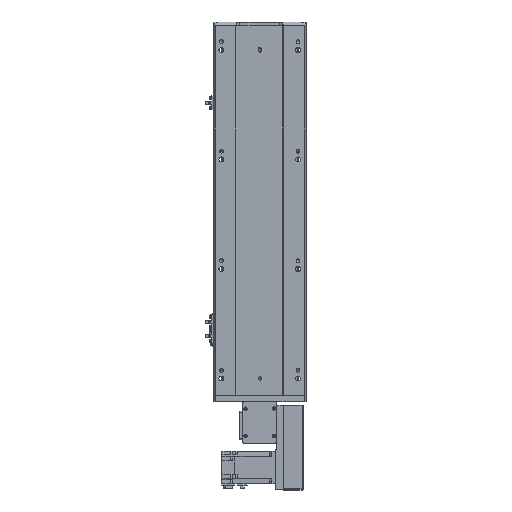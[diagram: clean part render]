
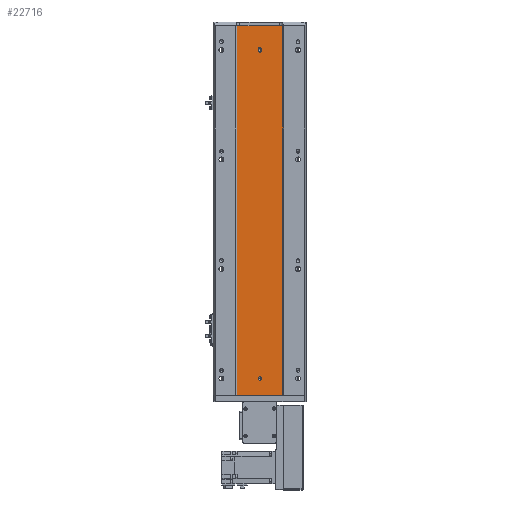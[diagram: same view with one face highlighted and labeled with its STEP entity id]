
A CAD part, top view. The second image highlights one B-rep face of the part: STEP entity #22716.
In plain terms, the highlighted planar face has unit normal (0, 0, 1).
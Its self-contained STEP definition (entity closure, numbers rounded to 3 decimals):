
#1 = ORIENTED_EDGE ( 'NONE', *, *, #12815, .T. ) ;
#219 = DIRECTION ( 'NONE',  ( 1., 0., 0. ) ) ;
#348 = PLANE ( 'NONE',  #25048 ) ;
#2908 = VERTEX_POINT ( 'NONE', #9586 ) ;
#3003 = EDGE_LOOP ( 'NONE', ( #19299, #6904, #1, #14983 ) ) ;
#3209 = FACE_BOUND ( 'NONE', #39487, .T. ) ;
#4280 = ORIENTED_EDGE ( 'NONE', *, *, #23012, .F. ) ;
#4481 = CARTESIAN_POINT ( 'NONE',  ( 0., -45., 44. ) ) ;
#5139 = DIRECTION ( 'NONE',  ( 1., 0., 0. ) ) ;
#5506 = CIRCLE ( 'NONE', #24352, 3. ) ;
#5574 = CARTESIAN_POINT ( 'NONE',  ( -42., -675., 44. ) ) ;
#6173 = VERTEX_POINT ( 'NONE', #38173 ) ;
#6497 = ORIENTED_EDGE ( 'NONE', *, *, #9991, .F. ) ;
#6696 = EDGE_CURVE ( 'NONE', #33274, #6173, #28257, .T. ) ;
#6904 = ORIENTED_EDGE ( 'NONE', *, *, #20447, .F. ) ;
#7710 = VERTEX_POINT ( 'NONE', #35027 ) ;
#7771 = EDGE_LOOP ( 'NONE', ( #6497, #4280, #20588, #16452 ) ) ;
#8689 = ORIENTED_EDGE ( 'NONE', *, *, #24646, .F. ) ;
#8941 = DIRECTION ( 'NONE',  ( 0., -1., 0. ) ) ;
#9202 = VERTEX_POINT ( 'NONE', #9281 ) ;
#9281 = CARTESIAN_POINT ( 'NONE',  ( -42., 0., 44. ) ) ;
#9586 = CARTESIAN_POINT ( 'NONE',  ( -42., -675., 44. ) ) ;
#9991 = EDGE_CURVE ( 'NONE', #32564, #29390, #35336, .T. ) ;
#10424 = CARTESIAN_POINT ( 'NONE',  ( 0., -644., 44. ) ) ;
#11884 = LINE ( 'NONE', #40299, #29012 ) ;
#12815 = EDGE_CURVE ( 'NONE', #2908, #15539, #16972, .T. ) ;
#12920 = DIRECTION ( 'NONE',  ( 1., 0., 0. ) ) ;
#13594 = CARTESIAN_POINT ( 'NONE',  ( 42., -675., 44. ) ) ;
#13845 = CARTESIAN_POINT ( 'NONE',  ( -3., -43., 44. ) ) ;
#13897 = DIRECTION ( 'NONE',  ( 1., 0., 0. ) ) ;
#14983 = ORIENTED_EDGE ( 'NONE', *, *, #19497, .T. ) ;
#15048 = DIRECTION ( 'NONE',  ( 0., 1., 0. ) ) ;
#15099 = CARTESIAN_POINT ( 'NONE',  ( -3., -45., 44. ) ) ;
#15495 = AXIS2_PLACEMENT_3D ( 'NONE', #25665, #22510, #19737 ) ;
#15539 = VERTEX_POINT ( 'NONE', #13594 ) ;
#16452 = ORIENTED_EDGE ( 'NONE', *, *, #30859, .F. ) ;
#16972 = LINE ( 'NONE', #27279, #33638 ) ;
#17010 = LINE ( 'NONE', #5574, #29762 ) ;
#17112 = CIRCLE ( 'NONE', #36064, 3. ) ;
#18096 = DIRECTION ( 'NONE',  ( 0., 1., 0. ) ) ;
#18624 = CARTESIAN_POINT ( 'NONE',  ( -42., -675., 44. ) ) ;
#19299 = ORIENTED_EDGE ( 'NONE', *, *, #28180, .F. ) ;
#19497 = EDGE_CURVE ( 'NONE', #15539, #7710, #38571, .T. ) ;
#19737 = DIRECTION ( 'NONE',  ( 1., 0., 0. ) ) ;
#20024 = DIRECTION ( 'NONE',  ( 0., 0., 1. ) ) ;
#20447 = EDGE_CURVE ( 'NONE', #2908, #9202, #17010, .T. ) ;
#20486 = VERTEX_POINT ( 'NONE', #15099 ) ;
#20588 = ORIENTED_EDGE ( 'NONE', *, *, #25931, .F. ) ;
#20766 = CARTESIAN_POINT ( 'NONE',  ( 3., -43., 44. ) ) ;
#22266 = VECTOR ( 'NONE', #38647, 1000. ) ;
#22320 = DIRECTION ( 'NONE',  ( 1., 0., 0. ) ) ;
#22510 = DIRECTION ( 'NONE',  ( 0., 0., 1. ) ) ;
#22716 = ADVANCED_FACE ( 'NONE', ( #34488, #3209, #37835 ), #348, .T. ) ;
#23012 = EDGE_CURVE ( 'NONE', #28812, #32564, #38826, .T. ) ;
#24352 = AXIS2_PLACEMENT_3D ( 'NONE', #37957, #34990, #22320 ) ;
#24646 = EDGE_CURVE ( 'NONE', #6173, #33274, #5506, .T. ) ;
#25048 = AXIS2_PLACEMENT_3D ( 'NONE', #18624, #31104, #219 ) ;
#25665 = CARTESIAN_POINT ( 'NONE',  ( 0., -43., 44. ) ) ;
#25931 = EDGE_CURVE ( 'NONE', #20486, #28812, #17112, .T. ) ;
#27279 = CARTESIAN_POINT ( 'NONE',  ( -42., -675., 44. ) ) ;
#28180 = EDGE_CURVE ( 'NONE', #9202, #7710, #40372, .T. ) ;
#28257 = CIRCLE ( 'NONE', #36614, 3. ) ;
#28476 = CARTESIAN_POINT ( 'NONE',  ( 3., -45., 44. ) ) ;
#28812 = VERTEX_POINT ( 'NONE', #28476 ) ;
#29012 = VECTOR ( 'NONE', #8941, 1000. ) ;
#29390 = VERTEX_POINT ( 'NONE', #13845 ) ;
#29554 = DIRECTION ( 'NONE',  ( 0., 0., 1. ) ) ;
#29571 = CARTESIAN_POINT ( 'NONE',  ( 3., -43., 44. ) ) ;
#29762 = VECTOR ( 'NONE', #18096, 1000. ) ;
#30854 = ORIENTED_EDGE ( 'NONE', *, *, #6696, .F. ) ;
#30859 = EDGE_CURVE ( 'NONE', #29390, #20486, #11884, .T. ) ;
#31104 = DIRECTION ( 'NONE',  ( 0., 0., 1. ) ) ;
#31304 = VECTOR ( 'NONE', #15048, 1000. ) ;
#32564 = VERTEX_POINT ( 'NONE', #20766 ) ;
#32605 = VECTOR ( 'NONE', #12920, 1000. ) ;
#33274 = VERTEX_POINT ( 'NONE', #37465 ) ;
#33638 = VECTOR ( 'NONE', #5139, 1000. ) ;
#34488 = FACE_BOUND ( 'NONE', #7771, .T. ) ;
#34990 = DIRECTION ( 'NONE',  ( 0., 0., 1. ) ) ;
#35027 = CARTESIAN_POINT ( 'NONE',  ( 42., 0., 44. ) ) ;
#35336 = CIRCLE ( 'NONE', #15495, 3. ) ;
#35538 = DIRECTION ( 'NONE',  ( 1., 0., 0. ) ) ;
#36064 = AXIS2_PLACEMENT_3D ( 'NONE', #4481, #20024, #13897 ) ;
#36614 = AXIS2_PLACEMENT_3D ( 'NONE', #10424, #29554, #35538 ) ;
#37001 = CARTESIAN_POINT ( 'NONE',  ( 42., -675., 44. ) ) ;
#37465 = CARTESIAN_POINT ( 'NONE',  ( -3., -644., 44. ) ) ;
#37470 = CARTESIAN_POINT ( 'NONE',  ( -42., 0., 44. ) ) ;
#37835 = FACE_OUTER_BOUND ( 'NONE', #3003, .T. ) ;
#37957 = CARTESIAN_POINT ( 'NONE',  ( 0., -644., 44. ) ) ;
#38173 = CARTESIAN_POINT ( 'NONE',  ( 3., -644., 44. ) ) ;
#38571 = LINE ( 'NONE', #37001, #31304 ) ;
#38647 = DIRECTION ( 'NONE',  ( 0., 1., 0. ) ) ;
#38826 = LINE ( 'NONE', #29571, #22266 ) ;
#39487 = EDGE_LOOP ( 'NONE', ( #8689, #30854 ) ) ;
#40299 = CARTESIAN_POINT ( 'NONE',  ( -3., -43., 44. ) ) ;
#40372 = LINE ( 'NONE', #37470, #32605 ) ;
